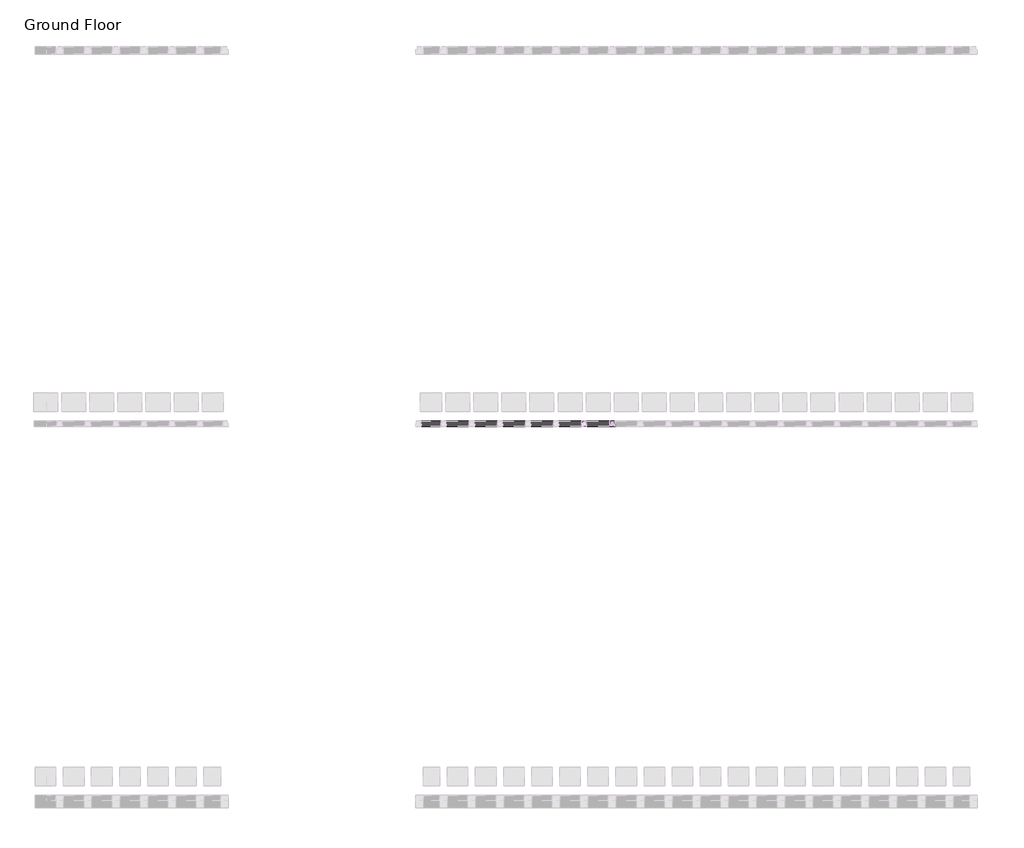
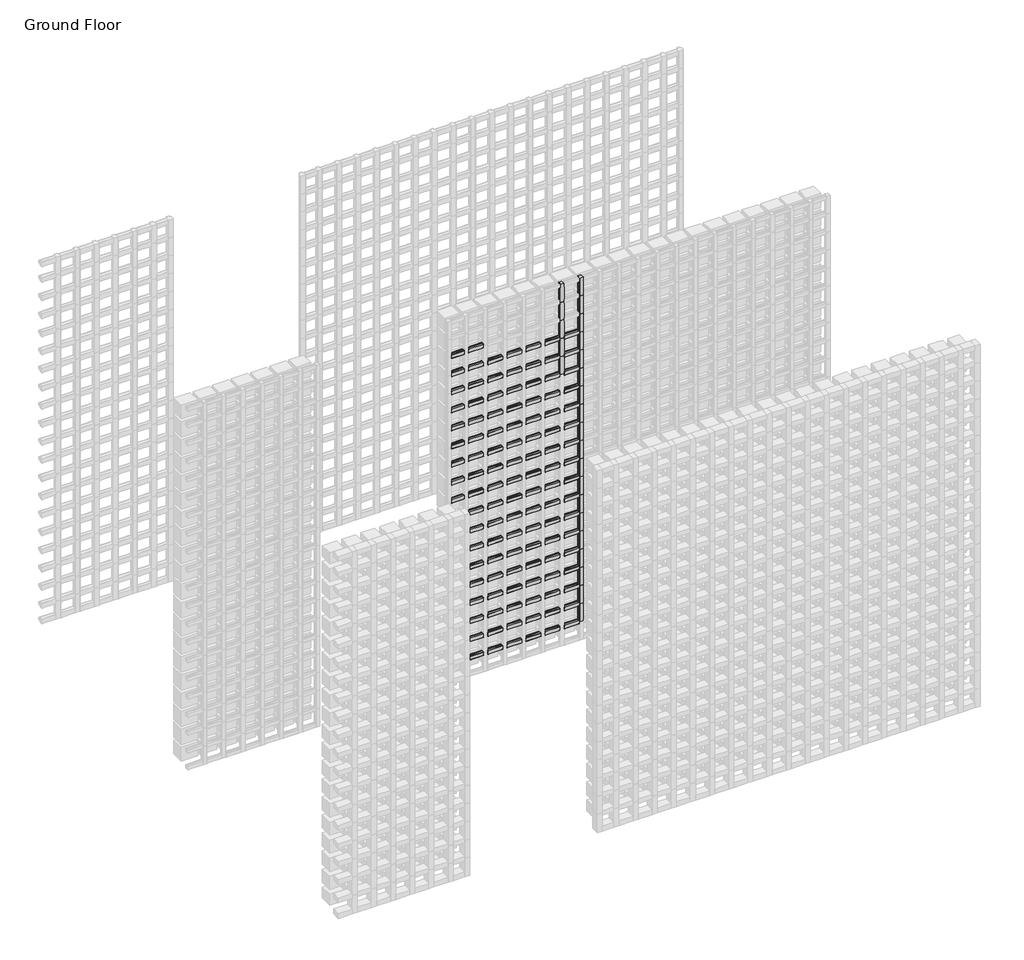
# One storey, part 105 of 350: 145 members.
"""IFC4 building model written with IfcOpenShell, lengths in millimetres."""

from ifc_helpers import new_model, si_unit, origin, place, context, project, spatial, transform, mapped, element, save
from components import rectangular_mullion_f1976eb1, rectangular_mullion_e2bab149, rectangular_mullion_707a50c4

model = new_model("IFC4")

# Units and contexts
model_context = context("Model", 3, world=origin())
ifc_project = project(units=[si_unit("LENGTHUNIT", "METRE", prefix="MILLI")], contexts=[model_context])

# Site, building, storey
site = spatial("IfcSite", under=ifc_project)
building = spatial("IfcBuilding", under=site)
storey = spatial("IfcBuildingStorey", under=building, Name="Ground Floor", Elevation=0.0)

# Members
placement = place(None, origin())
rectangular_mullion_shape = rectangular_mullion_f1976eb1(model_context)
element("IfcMember", 1, ObjectType="Rectangular Mullion : Batten_Timber_Modinex_Austratus_Grid_Fin_30x30_Blackbutt", at=placement, inside=storey, context=model_context, shape_type="MappedRepresentation", body=[
    mapped(rectangular_mullion_shape, transform((6816.4361642, 42968.2978302, 2250.0), x_axis=(1.0, 0.0, 0.0), y_axis=(0.0, -1.0, 0.0), z_axis=(0.0, 0.0, -1.0))),
])
element("IfcMember", 2, ObjectType="Rectangular Mullion : Batten_Timber_Modinex_Austratus_Grid_Fin_30x30_Blackbutt", at=placement, inside=storey, context=model_context, shape_type="MappedRepresentation", body=[
    mapped(rectangular_mullion_shape, transform((6816.4361642, 42968.2978302, 2400.0), x_axis=(1.0, 0.0, 0.0), y_axis=(0.0, -1.0, 0.0), z_axis=(0.0, 0.0, -1.0))),
])
element("IfcMember", 3, ObjectType="Rectangular Mullion : Batten_Timber_Modinex_Austratus_Grid_Fin_30x30_Blackbutt", at=placement, inside=storey, context=model_context, shape_type="MappedRepresentation", body=[
    mapped(rectangular_mullion_shape, transform((6816.4361642, 42968.2978302, 2550.0), x_axis=(1.0, 0.0, 0.0), y_axis=(0.0, -1.0, 0.0), z_axis=(0.0, 0.0, -1.0))),
])
element("IfcMember", 4, ObjectType="Rectangular Mullion : Batten_Timber_Modinex_Austratus_Grid_Fin_30x30_Blackbutt", at=placement, inside=storey, context=model_context, shape_type="MappedRepresentation", body=[
    mapped(rectangular_mullion_shape, transform((6816.4361642, 42968.2978302, 2700.0), x_axis=(1.0, 0.0, 0.0), y_axis=(0.0, -1.0, 0.0), z_axis=(0.0, 0.0, -1.0))),
])
element("IfcMember", 5, ObjectType="Rectangular Mullion : Batten_Timber_Modinex_Austratus_Grid_Fin_30x30_Blackbutt", at=placement, inside=storey, context=model_context, shape_type="MappedRepresentation", body=[
    mapped(rectangular_mullion_shape, transform((6966.4361642, 42968.2978302, 150.0), x_axis=(1.0, 0.0, 0.0), y_axis=(0.0, -1.0, 0.0), z_axis=(0.0, 0.0, -1.0))),
])
element("IfcMember", 6, ObjectType="Rectangular Mullion : Batten_Timber_Modinex_Austratus_Grid_Fin_30x30_Blackbutt", at=placement, inside=storey, context=model_context, shape_type="MappedRepresentation", body=[
    mapped(rectangular_mullion_shape, transform((6966.4361642, 42968.2978302, 300.0), x_axis=(1.0, 0.0, 0.0), y_axis=(0.0, -1.0, 0.0), z_axis=(0.0, 0.0, -1.0))),
])
element("IfcMember", 7, ObjectType="Rectangular Mullion : Batten_Timber_Modinex_Austratus_Grid_Fin_30x30_Blackbutt", at=placement, inside=storey, context=model_context, shape_type="MappedRepresentation", body=[
    mapped(rectangular_mullion_shape, transform((6966.4361642, 42968.2978302, 450.0), x_axis=(1.0, 0.0, 0.0), y_axis=(0.0, -1.0, 0.0), z_axis=(0.0, 0.0, -1.0))),
])
element("IfcMember", 8, ObjectType="Rectangular Mullion : Batten_Timber_Modinex_Austratus_Grid_Fin_30x30_Blackbutt", at=placement, inside=storey, context=model_context, shape_type="MappedRepresentation", body=[
    mapped(rectangular_mullion_shape, transform((6966.4361642, 42968.2978302, 600.0), x_axis=(1.0, 0.0, 0.0), y_axis=(0.0, -1.0, 0.0), z_axis=(0.0, 0.0, -1.0))),
])
element("IfcMember", 9, ObjectType="Rectangular Mullion : Batten_Timber_Modinex_Austratus_Grid_Fin_30x30_Blackbutt", at=placement, inside=storey, context=model_context, shape_type="MappedRepresentation", body=[
    mapped(rectangular_mullion_shape, transform((6966.4361642, 42968.2978302, 750.0), x_axis=(1.0, 0.0, 0.0), y_axis=(0.0, -1.0, 0.0), z_axis=(0.0, 0.0, -1.0))),
])
element("IfcMember", 10, ObjectType="Rectangular Mullion : Batten_Timber_Modinex_Austratus_Grid_Fin_30x30_Blackbutt", at=placement, inside=storey, context=model_context, shape_type="MappedRepresentation", body=[
    mapped(rectangular_mullion_shape, transform((6966.4361642, 42968.2978302, 900.0), x_axis=(1.0, 0.0, 0.0), y_axis=(0.0, -1.0, 0.0), z_axis=(0.0, 0.0, -1.0))),
])
element("IfcMember", 11, ObjectType="Rectangular Mullion : Batten_Timber_Modinex_Austratus_Grid_Fin_30x30_Blackbutt", at=placement, inside=storey, context=model_context, shape_type="MappedRepresentation", body=[
    mapped(rectangular_mullion_shape, transform((6966.4361642, 42968.2978302, 1050.0), x_axis=(1.0, 0.0, 0.0), y_axis=(0.0, -1.0, 0.0), z_axis=(0.0, 0.0, -1.0))),
])
element("IfcMember", 12, ObjectType="Rectangular Mullion : Batten_Timber_Modinex_Austratus_Grid_Fin_30x30_Blackbutt", at=placement, inside=storey, context=model_context, shape_type="MappedRepresentation", body=[
    mapped(rectangular_mullion_shape, transform((6966.4361642, 42968.2978302, 1200.0), x_axis=(1.0, 0.0, 0.0), y_axis=(0.0, -1.0, 0.0), z_axis=(0.0, 0.0, -1.0))),
])
element("IfcMember", 13, ObjectType="Rectangular Mullion : Batten_Timber_Modinex_Austratus_Grid_Fin_30x30_Blackbutt", at=placement, inside=storey, context=model_context, shape_type="MappedRepresentation", body=[
    mapped(rectangular_mullion_shape, transform((6966.4361642, 42968.2978302, 1350.0), x_axis=(1.0, 0.0, 0.0), y_axis=(0.0, -1.0, 0.0), z_axis=(0.0, 0.0, -1.0))),
])
element("IfcMember", 14, ObjectType="Rectangular Mullion : Batten_Timber_Modinex_Austratus_Grid_Fin_30x30_Blackbutt", at=placement, inside=storey, context=model_context, shape_type="MappedRepresentation", body=[
    mapped(rectangular_mullion_shape, transform((6966.4361642, 42968.2978302, 1500.0), x_axis=(1.0, 0.0, 0.0), y_axis=(0.0, -1.0, 0.0), z_axis=(0.0, 0.0, -1.0))),
])
element("IfcMember", 15, ObjectType="Rectangular Mullion : Batten_Timber_Modinex_Austratus_Grid_Fin_30x30_Blackbutt", at=placement, inside=storey, context=model_context, shape_type="MappedRepresentation", body=[
    mapped(rectangular_mullion_shape, transform((6966.4361642, 42968.2978302, 1650.0), x_axis=(1.0, 0.0, 0.0), y_axis=(0.0, -1.0, 0.0), z_axis=(0.0, 0.0, -1.0))),
])
element("IfcMember", 16, ObjectType="Rectangular Mullion : Batten_Timber_Modinex_Austratus_Grid_Fin_30x30_Blackbutt", at=placement, inside=storey, context=model_context, shape_type="MappedRepresentation", body=[
    mapped(rectangular_mullion_shape, transform((6966.4361642, 42968.2978302, 1800.0), x_axis=(1.0, 0.0, 0.0), y_axis=(0.0, -1.0, 0.0), z_axis=(0.0, 0.0, -1.0))),
])
element("IfcMember", 17, ObjectType="Rectangular Mullion : Batten_Timber_Modinex_Austratus_Grid_Fin_30x30_Blackbutt", at=placement, inside=storey, context=model_context, shape_type="MappedRepresentation", body=[
    mapped(rectangular_mullion_shape, transform((6966.4361642, 42968.2978302, 1950.0), x_axis=(1.0, 0.0, 0.0), y_axis=(0.0, -1.0, 0.0), z_axis=(0.0, 0.0, -1.0))),
])
element("IfcMember", 18, ObjectType="Rectangular Mullion : Batten_Timber_Modinex_Austratus_Grid_Fin_30x30_Blackbutt", at=placement, inside=storey, context=model_context, shape_type="MappedRepresentation", body=[
    mapped(rectangular_mullion_shape, transform((6966.4361642, 42968.2978302, 2100.0), x_axis=(1.0, 0.0, 0.0), y_axis=(0.0, -1.0, 0.0), z_axis=(0.0, 0.0, -1.0))),
])
element("IfcMember", 19, ObjectType="Rectangular Mullion : Batten_Timber_Modinex_Austratus_Grid_Fin_30x30_Blackbutt", at=placement, inside=storey, context=model_context, shape_type="MappedRepresentation", body=[
    mapped(rectangular_mullion_shape, transform((6966.4361642, 42968.2978302, 2250.0), x_axis=(1.0, 0.0, 0.0), y_axis=(0.0, -1.0, 0.0), z_axis=(0.0, 0.0, -1.0))),
])
element("IfcMember", 20, ObjectType="Rectangular Mullion : Batten_Timber_Modinex_Austratus_Grid_Fin_30x30_Blackbutt", at=placement, inside=storey, context=model_context, shape_type="MappedRepresentation", body=[
    mapped(rectangular_mullion_shape, transform((6966.4361642, 42968.2978302, 2400.0), x_axis=(1.0, 0.0, 0.0), y_axis=(0.0, -1.0, 0.0), z_axis=(0.0, 0.0, -1.0))),
])
element("IfcMember", 21, ObjectType="Rectangular Mullion : Batten_Timber_Modinex_Austratus_Grid_Fin_30x30_Blackbutt", at=placement, inside=storey, context=model_context, shape_type="MappedRepresentation", body=[
    mapped(rectangular_mullion_shape, transform((6966.4361642, 42968.2978302, 2550.0), x_axis=(1.0, 0.0, 0.0), y_axis=(0.0, -1.0, 0.0), z_axis=(0.0, 0.0, -1.0))),
])
element("IfcMember", 22, ObjectType="Rectangular Mullion : Batten_Timber_Modinex_Austratus_Grid_Fin_30x30_Blackbutt", at=placement, inside=storey, context=model_context, shape_type="MappedRepresentation", body=[
    mapped(rectangular_mullion_shape, transform((6966.4361642, 42968.2978302, 2700.0), x_axis=(1.0, 0.0, 0.0), y_axis=(0.0, -1.0, 0.0), z_axis=(0.0, 0.0, -1.0))),
])
element("IfcMember", 23, ObjectType="Rectangular Mullion : Batten_Timber_Modinex_Austratus_Grid_Fin_30x30_Blackbutt", at=placement, inside=storey, context=model_context, shape_type="MappedRepresentation", body=[
    mapped(rectangular_mullion_shape, transform((6816.4361642, 42968.2978302, 2850.0), x_axis=(1.0, 0.0, 0.0), y_axis=(0.0, -1.0, 0.0), z_axis=(0.0, 0.0, -1.0))),
])
element("IfcMember", 24, ObjectType="Rectangular Mullion : Batten_Timber_Modinex_Austratus_Grid_Fin_30x30_Blackbutt", at=placement, inside=storey, context=model_context, shape_type="MappedRepresentation", body=[
    mapped(rectangular_mullion_shape, transform((6966.4361642, 42968.2978302, 2850.0), x_axis=(1.0, 0.0, 0.0), y_axis=(0.0, -1.0, 0.0), z_axis=(0.0, 0.0, -1.0))),
])
rectangular_mullion_2_shape = rectangular_mullion_e2bab149(model_context)
element("IfcMember", 25, ObjectType="Rectangular Mullion : Batten_Timber_Modinex_Austratus_Grid_Fin_30x30_Blackbutt", at=placement, inside=storey, context=model_context, shape_type="MappedRepresentation", body=[
    mapped(rectangular_mullion_2_shape, transform((6051.4361642, 42968.2978302, 150.0), x_axis=(0.0, 0.0, 1.0), y_axis=(0.0, -1.0, 0.0), z_axis=(1.0, 0.0, 0.0))),
])
element("IfcMember", 26, ObjectType="Rectangular Mullion : Batten_Timber_Modinex_Austratus_Grid_Fin_30x30_Blackbutt", at=placement, inside=storey, context=model_context, shape_type="MappedRepresentation", body=[
    mapped(rectangular_mullion_2_shape, transform((6051.4361642, 42968.2978302, 300.0), x_axis=(0.0, 0.0, 1.0), y_axis=(0.0, -1.0, 0.0), z_axis=(1.0, 0.0, 0.0))),
])
element("IfcMember", 27, ObjectType="Rectangular Mullion : Batten_Timber_Modinex_Austratus_Grid_Fin_30x30_Blackbutt", at=placement, inside=storey, context=model_context, shape_type="MappedRepresentation", body=[
    mapped(rectangular_mullion_2_shape, transform((6051.4361642, 42968.2978302, 450.0), x_axis=(0.0, 0.0, 1.0), y_axis=(0.0, -1.0, 0.0), z_axis=(1.0, 0.0, 0.0))),
])
element("IfcMember", 28, ObjectType="Rectangular Mullion : Batten_Timber_Modinex_Austratus_Grid_Fin_30x30_Blackbutt", at=placement, inside=storey, context=model_context, shape_type="MappedRepresentation", body=[
    mapped(rectangular_mullion_2_shape, transform((6051.4361642, 42968.2978302, 600.0), x_axis=(0.0, 0.0, 1.0), y_axis=(0.0, -1.0, 0.0), z_axis=(1.0, 0.0, 0.0))),
])
element("IfcMember", 29, ObjectType="Rectangular Mullion : Batten_Timber_Modinex_Austratus_Grid_Fin_30x30_Blackbutt", at=placement, inside=storey, context=model_context, shape_type="MappedRepresentation", body=[
    mapped(rectangular_mullion_2_shape, transform((6051.4361642, 42968.2978302, 750.0), x_axis=(0.0, 0.0, 1.0), y_axis=(0.0, -1.0, 0.0), z_axis=(1.0, 0.0, 0.0))),
])
element("IfcMember", 30, ObjectType="Rectangular Mullion : Batten_Timber_Modinex_Austratus_Grid_Fin_30x30_Blackbutt", at=placement, inside=storey, context=model_context, shape_type="MappedRepresentation", body=[
    mapped(rectangular_mullion_2_shape, transform((6051.4361642, 42968.2978302, 900.0), x_axis=(0.0, 0.0, 1.0), y_axis=(0.0, -1.0, 0.0), z_axis=(1.0, 0.0, 0.0))),
])
element("IfcMember", 31, ObjectType="Rectangular Mullion : Batten_Timber_Modinex_Austratus_Grid_Fin_30x30_Blackbutt", at=placement, inside=storey, context=model_context, shape_type="MappedRepresentation", body=[
    mapped(rectangular_mullion_2_shape, transform((6051.4361642, 42968.2978302, 1050.0), x_axis=(0.0, 0.0, 1.0), y_axis=(0.0, -1.0, 0.0), z_axis=(1.0, 0.0, 0.0))),
])
element("IfcMember", 32, ObjectType="Rectangular Mullion : Batten_Timber_Modinex_Austratus_Grid_Fin_30x30_Blackbutt", at=placement, inside=storey, context=model_context, shape_type="MappedRepresentation", body=[
    mapped(rectangular_mullion_2_shape, transform((6051.4361642, 42968.2978302, 1200.0), x_axis=(0.0, 0.0, 1.0), y_axis=(0.0, -1.0, 0.0), z_axis=(1.0, 0.0, 0.0))),
])
element("IfcMember", 33, ObjectType="Rectangular Mullion : Batten_Timber_Modinex_Austratus_Grid_Fin_30x30_Blackbutt", at=placement, inside=storey, context=model_context, shape_type="MappedRepresentation", body=[
    mapped(rectangular_mullion_2_shape, transform((6051.4361642, 42968.2978302, 1350.0), x_axis=(0.0, 0.0, 1.0), y_axis=(0.0, -1.0, 0.0), z_axis=(1.0, 0.0, 0.0))),
])
element("IfcMember", 34, ObjectType="Rectangular Mullion : Batten_Timber_Modinex_Austratus_Grid_Fin_30x30_Blackbutt", at=placement, inside=storey, context=model_context, shape_type="MappedRepresentation", body=[
    mapped(rectangular_mullion_2_shape, transform((6051.4361642, 42968.2978302, 1500.0), x_axis=(0.0, 0.0, 1.0), y_axis=(0.0, -1.0, 0.0), z_axis=(1.0, 0.0, 0.0))),
])
element("IfcMember", 35, ObjectType="Rectangular Mullion : Batten_Timber_Modinex_Austratus_Grid_Fin_30x30_Blackbutt", at=placement, inside=storey, context=model_context, shape_type="MappedRepresentation", body=[
    mapped(rectangular_mullion_2_shape, transform((6051.4361642, 42968.2978302, 1650.0), x_axis=(0.0, 0.0, 1.0), y_axis=(0.0, -1.0, 0.0), z_axis=(1.0, 0.0, 0.0))),
])
element("IfcMember", 36, ObjectType="Rectangular Mullion : Batten_Timber_Modinex_Austratus_Grid_Fin_30x30_Blackbutt", at=placement, inside=storey, context=model_context, shape_type="MappedRepresentation", body=[
    mapped(rectangular_mullion_2_shape, transform((6051.4361642, 42968.2978302, 1800.0), x_axis=(0.0, 0.0, 1.0), y_axis=(0.0, -1.0, 0.0), z_axis=(1.0, 0.0, 0.0))),
])
element("IfcMember", 37, ObjectType="Rectangular Mullion : Batten_Timber_Modinex_Austratus_Grid_Fin_30x30_Blackbutt", at=placement, inside=storey, context=model_context, shape_type="MappedRepresentation", body=[
    mapped(rectangular_mullion_2_shape, transform((6051.4361642, 42968.2978302, 1950.0), x_axis=(0.0, 0.0, 1.0), y_axis=(0.0, -1.0, 0.0), z_axis=(1.0, 0.0, 0.0))),
])
element("IfcMember", 38, ObjectType="Rectangular Mullion : Batten_Timber_Modinex_Austratus_Grid_Fin_30x30_Blackbutt", at=placement, inside=storey, context=model_context, shape_type="MappedRepresentation", body=[
    mapped(rectangular_mullion_2_shape, transform((6051.4361642, 42968.2978302, 2100.0), x_axis=(0.0, 0.0, 1.0), y_axis=(0.0, -1.0, 0.0), z_axis=(1.0, 0.0, 0.0))),
])
element("IfcMember", 39, ObjectType="Rectangular Mullion : Batten_Timber_Modinex_Austratus_Grid_Fin_30x30_Blackbutt", at=placement, inside=storey, context=model_context, shape_type="MappedRepresentation", body=[
    mapped(rectangular_mullion_2_shape, transform((6051.4361642, 42968.2978302, 2250.0), x_axis=(0.0, 0.0, 1.0), y_axis=(0.0, -1.0, 0.0), z_axis=(1.0, 0.0, 0.0))),
])
element("IfcMember", 40, ObjectType="Rectangular Mullion : Batten_Timber_Modinex_Austratus_Grid_Fin_30x30_Blackbutt", at=placement, inside=storey, context=model_context, shape_type="MappedRepresentation", body=[
    mapped(rectangular_mullion_2_shape, transform((6051.4361642, 42968.2978302, 2400.0), x_axis=(0.0, 0.0, 1.0), y_axis=(0.0, -1.0, 0.0), z_axis=(1.0, 0.0, 0.0))),
])
element("IfcMember", 41, ObjectType="Rectangular Mullion : Batten_Timber_Modinex_Austratus_Grid_Fin_30x30_Blackbutt", at=placement, inside=storey, context=model_context, shape_type="MappedRepresentation", body=[
    mapped(rectangular_mullion_2_shape, transform((6051.4361642, 42968.2978302, 2550.0), x_axis=(0.0, 0.0, 1.0), y_axis=(0.0, -1.0, 0.0), z_axis=(1.0, 0.0, 0.0))),
])
element("IfcMember", 42, ObjectType="Rectangular Mullion : Batten_Timber_Modinex_Austratus_Grid_Fin_30x30_Blackbutt", at=placement, inside=storey, context=model_context, shape_type="MappedRepresentation", body=[
    mapped(rectangular_mullion_2_shape, transform((6051.4361642, 42968.2978302, 2700.0), x_axis=(0.0, 0.0, 1.0), y_axis=(0.0, -1.0, 0.0), z_axis=(1.0, 0.0, 0.0))),
])
rectangular_mullion_3_shape = rectangular_mullion_707a50c4(model_context)
element("IfcMember", 43, ObjectType="Rectangular Mullion : Batten_Timber_Modinex_Austratus_Grid_Fin_30x30_Blackbutt", at=placement, inside=storey, context=model_context, shape_type="MappedRepresentation", body=[
    mapped(rectangular_mullion_3_shape, transform((6201.4361642, 42968.2978302, 150.0), x_axis=(0.0, 0.0, 1.0), y_axis=(0.0, -1.0, 0.0), z_axis=(1.0, 0.0, 0.0))),
])
element("IfcMember", 44, ObjectType="Rectangular Mullion : Batten_Timber_Modinex_Austratus_Grid_Fin_30x30_Blackbutt", at=placement, inside=storey, context=model_context, shape_type="MappedRepresentation", body=[
    mapped(rectangular_mullion_3_shape, transform((6351.4361642, 42968.2978302, 150.0), x_axis=(0.0, 0.0, 1.0), y_axis=(0.0, -1.0, 0.0), z_axis=(1.0, 0.0, 0.0))),
])
element("IfcMember", 45, ObjectType="Rectangular Mullion : Batten_Timber_Modinex_Austratus_Grid_Fin_30x30_Blackbutt", at=placement, inside=storey, context=model_context, shape_type="MappedRepresentation", body=[
    mapped(rectangular_mullion_3_shape, transform((6501.4361642, 42968.2978302, 150.0), x_axis=(0.0, 0.0, 1.0), y_axis=(0.0, -1.0, 0.0), z_axis=(1.0, 0.0, 0.0))),
])
element("IfcMember", 46, ObjectType="Rectangular Mullion : Batten_Timber_Modinex_Austratus_Grid_Fin_30x30_Blackbutt", at=placement, inside=storey, context=model_context, shape_type="MappedRepresentation", body=[
    mapped(rectangular_mullion_3_shape, transform((6651.4361642, 42968.2978302, 150.0), x_axis=(0.0, 0.0, 1.0), y_axis=(0.0, -1.0, 0.0), z_axis=(1.0, 0.0, 0.0))),
])
element("IfcMember", 47, ObjectType="Rectangular Mullion : Batten_Timber_Modinex_Austratus_Grid_Fin_30x30_Blackbutt", at=placement, inside=storey, context=model_context, shape_type="MappedRepresentation", body=[
    mapped(rectangular_mullion_3_shape, transform((6801.4361642, 42968.2978302, 150.0), x_axis=(0.0, 0.0, 1.0), y_axis=(0.0, -1.0, 0.0), z_axis=(1.0, 0.0, 0.0))),
])
element("IfcMember", 48, ObjectType="Rectangular Mullion : Batten_Timber_Modinex_Austratus_Grid_Fin_30x30_Blackbutt", at=placement, inside=storey, context=model_context, shape_type="MappedRepresentation", body=[
    mapped(rectangular_mullion_3_shape, transform((6951.4361642, 42968.2978302, 150.0), x_axis=(0.0, 0.0, 1.0), y_axis=(0.0, -1.0, 0.0), z_axis=(1.0, 0.0, 0.0))),
])
element("IfcMember", 49, ObjectType="Rectangular Mullion : Batten_Timber_Modinex_Austratus_Grid_Fin_30x30_Blackbutt", at=placement, inside=storey, context=model_context, shape_type="MappedRepresentation", body=[
    mapped(rectangular_mullion_3_shape, transform((6201.4361642, 42968.2978302, 300.0), x_axis=(0.0, 0.0, 1.0), y_axis=(0.0, -1.0, 0.0), z_axis=(1.0, 0.0, 0.0))),
])
element("IfcMember", 50, ObjectType="Rectangular Mullion : Batten_Timber_Modinex_Austratus_Grid_Fin_30x30_Blackbutt", at=placement, inside=storey, context=model_context, shape_type="MappedRepresentation", body=[
    mapped(rectangular_mullion_3_shape, transform((6351.4361642, 42968.2978302, 300.0), x_axis=(0.0, 0.0, 1.0), y_axis=(0.0, -1.0, 0.0), z_axis=(1.0, 0.0, 0.0))),
])
element("IfcMember", 51, ObjectType="Rectangular Mullion : Batten_Timber_Modinex_Austratus_Grid_Fin_30x30_Blackbutt", at=placement, inside=storey, context=model_context, shape_type="MappedRepresentation", body=[
    mapped(rectangular_mullion_3_shape, transform((6501.4361642, 42968.2978302, 300.0), x_axis=(0.0, 0.0, 1.0), y_axis=(0.0, -1.0, 0.0), z_axis=(1.0, 0.0, 0.0))),
])
element("IfcMember", 52, ObjectType="Rectangular Mullion : Batten_Timber_Modinex_Austratus_Grid_Fin_30x30_Blackbutt", at=placement, inside=storey, context=model_context, shape_type="MappedRepresentation", body=[
    mapped(rectangular_mullion_3_shape, transform((6651.4361642, 42968.2978302, 300.0), x_axis=(0.0, 0.0, 1.0), y_axis=(0.0, -1.0, 0.0), z_axis=(1.0, 0.0, 0.0))),
])
element("IfcMember", 53, ObjectType="Rectangular Mullion : Batten_Timber_Modinex_Austratus_Grid_Fin_30x30_Blackbutt", at=placement, inside=storey, context=model_context, shape_type="MappedRepresentation", body=[
    mapped(rectangular_mullion_3_shape, transform((6801.4361642, 42968.2978302, 300.0), x_axis=(0.0, 0.0, 1.0), y_axis=(0.0, -1.0, 0.0), z_axis=(1.0, 0.0, 0.0))),
])
element("IfcMember", 54, ObjectType="Rectangular Mullion : Batten_Timber_Modinex_Austratus_Grid_Fin_30x30_Blackbutt", at=placement, inside=storey, context=model_context, shape_type="MappedRepresentation", body=[
    mapped(rectangular_mullion_3_shape, transform((6951.4361642, 42968.2978302, 300.0), x_axis=(0.0, 0.0, 1.0), y_axis=(0.0, -1.0, 0.0), z_axis=(1.0, 0.0, 0.0))),
])
element("IfcMember", 55, ObjectType="Rectangular Mullion : Batten_Timber_Modinex_Austratus_Grid_Fin_30x30_Blackbutt", at=placement, inside=storey, context=model_context, shape_type="MappedRepresentation", body=[
    mapped(rectangular_mullion_3_shape, transform((6201.4361642, 42968.2978302, 450.0), x_axis=(0.0, 0.0, 1.0), y_axis=(0.0, -1.0, 0.0), z_axis=(1.0, 0.0, 0.0))),
])
element("IfcMember", 56, ObjectType="Rectangular Mullion : Batten_Timber_Modinex_Austratus_Grid_Fin_30x30_Blackbutt", at=placement, inside=storey, context=model_context, shape_type="MappedRepresentation", body=[
    mapped(rectangular_mullion_3_shape, transform((6351.4361642, 42968.2978302, 450.0), x_axis=(0.0, 0.0, 1.0), y_axis=(0.0, -1.0, 0.0), z_axis=(1.0, 0.0, 0.0))),
])
element("IfcMember", 57, ObjectType="Rectangular Mullion : Batten_Timber_Modinex_Austratus_Grid_Fin_30x30_Blackbutt", at=placement, inside=storey, context=model_context, shape_type="MappedRepresentation", body=[
    mapped(rectangular_mullion_3_shape, transform((6501.4361642, 42968.2978302, 450.0), x_axis=(0.0, 0.0, 1.0), y_axis=(0.0, -1.0, 0.0), z_axis=(1.0, 0.0, 0.0))),
])
element("IfcMember", 58, ObjectType="Rectangular Mullion : Batten_Timber_Modinex_Austratus_Grid_Fin_30x30_Blackbutt", at=placement, inside=storey, context=model_context, shape_type="MappedRepresentation", body=[
    mapped(rectangular_mullion_3_shape, transform((6651.4361642, 42968.2978302, 450.0), x_axis=(0.0, 0.0, 1.0), y_axis=(0.0, -1.0, 0.0), z_axis=(1.0, 0.0, 0.0))),
])
element("IfcMember", 59, ObjectType="Rectangular Mullion : Batten_Timber_Modinex_Austratus_Grid_Fin_30x30_Blackbutt", at=placement, inside=storey, context=model_context, shape_type="MappedRepresentation", body=[
    mapped(rectangular_mullion_3_shape, transform((6801.4361642, 42968.2978302, 450.0), x_axis=(0.0, 0.0, 1.0), y_axis=(0.0, -1.0, 0.0), z_axis=(1.0, 0.0, 0.0))),
])
element("IfcMember", 60, ObjectType="Rectangular Mullion : Batten_Timber_Modinex_Austratus_Grid_Fin_30x30_Blackbutt", at=placement, inside=storey, context=model_context, shape_type="MappedRepresentation", body=[
    mapped(rectangular_mullion_3_shape, transform((6951.4361642, 42968.2978302, 450.0), x_axis=(0.0, 0.0, 1.0), y_axis=(0.0, -1.0, 0.0), z_axis=(1.0, 0.0, 0.0))),
])
element("IfcMember", 61, ObjectType="Rectangular Mullion : Batten_Timber_Modinex_Austratus_Grid_Fin_30x30_Blackbutt", at=placement, inside=storey, context=model_context, shape_type="MappedRepresentation", body=[
    mapped(rectangular_mullion_3_shape, transform((6201.4361642, 42968.2978302, 600.0), x_axis=(0.0, 0.0, 1.0), y_axis=(0.0, -1.0, 0.0), z_axis=(1.0, 0.0, 0.0))),
])
element("IfcMember", 62, ObjectType="Rectangular Mullion : Batten_Timber_Modinex_Austratus_Grid_Fin_30x30_Blackbutt", at=placement, inside=storey, context=model_context, shape_type="MappedRepresentation", body=[
    mapped(rectangular_mullion_3_shape, transform((6351.4361642, 42968.2978302, 600.0), x_axis=(0.0, 0.0, 1.0), y_axis=(0.0, -1.0, 0.0), z_axis=(1.0, 0.0, 0.0))),
])
element("IfcMember", 63, ObjectType="Rectangular Mullion : Batten_Timber_Modinex_Austratus_Grid_Fin_30x30_Blackbutt", at=placement, inside=storey, context=model_context, shape_type="MappedRepresentation", body=[
    mapped(rectangular_mullion_3_shape, transform((6501.4361642, 42968.2978302, 600.0), x_axis=(0.0, 0.0, 1.0), y_axis=(0.0, -1.0, 0.0), z_axis=(1.0, 0.0, 0.0))),
])
element("IfcMember", 64, ObjectType="Rectangular Mullion : Batten_Timber_Modinex_Austratus_Grid_Fin_30x30_Blackbutt", at=placement, inside=storey, context=model_context, shape_type="MappedRepresentation", body=[
    mapped(rectangular_mullion_3_shape, transform((6651.4361642, 42968.2978302, 600.0), x_axis=(0.0, 0.0, 1.0), y_axis=(0.0, -1.0, 0.0), z_axis=(1.0, 0.0, 0.0))),
])
element("IfcMember", 65, ObjectType="Rectangular Mullion : Batten_Timber_Modinex_Austratus_Grid_Fin_30x30_Blackbutt", at=placement, inside=storey, context=model_context, shape_type="MappedRepresentation", body=[
    mapped(rectangular_mullion_3_shape, transform((6801.4361642, 42968.2978302, 600.0), x_axis=(0.0, 0.0, 1.0), y_axis=(0.0, -1.0, 0.0), z_axis=(1.0, 0.0, 0.0))),
])
element("IfcMember", 66, ObjectType="Rectangular Mullion : Batten_Timber_Modinex_Austratus_Grid_Fin_30x30_Blackbutt", at=placement, inside=storey, context=model_context, shape_type="MappedRepresentation", body=[
    mapped(rectangular_mullion_3_shape, transform((6951.4361642, 42968.2978302, 600.0), x_axis=(0.0, 0.0, 1.0), y_axis=(0.0, -1.0, 0.0), z_axis=(1.0, 0.0, 0.0))),
])
element("IfcMember", 67, ObjectType="Rectangular Mullion : Batten_Timber_Modinex_Austratus_Grid_Fin_30x30_Blackbutt", at=placement, inside=storey, context=model_context, shape_type="MappedRepresentation", body=[
    mapped(rectangular_mullion_3_shape, transform((6201.4361642, 42968.2978302, 750.0), x_axis=(0.0, 0.0, 1.0), y_axis=(0.0, -1.0, 0.0), z_axis=(1.0, 0.0, 0.0))),
])
element("IfcMember", 68, ObjectType="Rectangular Mullion : Batten_Timber_Modinex_Austratus_Grid_Fin_30x30_Blackbutt", at=placement, inside=storey, context=model_context, shape_type="MappedRepresentation", body=[
    mapped(rectangular_mullion_3_shape, transform((6351.4361642, 42968.2978302, 750.0), x_axis=(0.0, 0.0, 1.0), y_axis=(0.0, -1.0, 0.0), z_axis=(1.0, 0.0, 0.0))),
])
element("IfcMember", 69, ObjectType="Rectangular Mullion : Batten_Timber_Modinex_Austratus_Grid_Fin_30x30_Blackbutt", at=placement, inside=storey, context=model_context, shape_type="MappedRepresentation", body=[
    mapped(rectangular_mullion_3_shape, transform((6501.4361642, 42968.2978302, 750.0), x_axis=(0.0, 0.0, 1.0), y_axis=(0.0, -1.0, 0.0), z_axis=(1.0, 0.0, 0.0))),
])
element("IfcMember", 70, ObjectType="Rectangular Mullion : Batten_Timber_Modinex_Austratus_Grid_Fin_30x30_Blackbutt", at=placement, inside=storey, context=model_context, shape_type="MappedRepresentation", body=[
    mapped(rectangular_mullion_3_shape, transform((6651.4361642, 42968.2978302, 750.0), x_axis=(0.0, 0.0, 1.0), y_axis=(0.0, -1.0, 0.0), z_axis=(1.0, 0.0, 0.0))),
])
element("IfcMember", 71, ObjectType="Rectangular Mullion : Batten_Timber_Modinex_Austratus_Grid_Fin_30x30_Blackbutt", at=placement, inside=storey, context=model_context, shape_type="MappedRepresentation", body=[
    mapped(rectangular_mullion_3_shape, transform((6801.4361642, 42968.2978302, 750.0), x_axis=(0.0, 0.0, 1.0), y_axis=(0.0, -1.0, 0.0), z_axis=(1.0, 0.0, 0.0))),
])
element("IfcMember", 72, ObjectType="Rectangular Mullion : Batten_Timber_Modinex_Austratus_Grid_Fin_30x30_Blackbutt", at=placement, inside=storey, context=model_context, shape_type="MappedRepresentation", body=[
    mapped(rectangular_mullion_3_shape, transform((6951.4361642, 42968.2978302, 750.0), x_axis=(0.0, 0.0, 1.0), y_axis=(0.0, -1.0, 0.0), z_axis=(1.0, 0.0, 0.0))),
])
element("IfcMember", 73, ObjectType="Rectangular Mullion : Batten_Timber_Modinex_Austratus_Grid_Fin_30x30_Blackbutt", at=placement, inside=storey, context=model_context, shape_type="MappedRepresentation", body=[
    mapped(rectangular_mullion_3_shape, transform((6201.4361642, 42968.2978302, 900.0), x_axis=(0.0, 0.0, 1.0), y_axis=(0.0, -1.0, 0.0), z_axis=(1.0, 0.0, 0.0))),
])
element("IfcMember", 74, ObjectType="Rectangular Mullion : Batten_Timber_Modinex_Austratus_Grid_Fin_30x30_Blackbutt", at=placement, inside=storey, context=model_context, shape_type="MappedRepresentation", body=[
    mapped(rectangular_mullion_3_shape, transform((6351.4361642, 42968.2978302, 900.0), x_axis=(0.0, 0.0, 1.0), y_axis=(0.0, -1.0, 0.0), z_axis=(1.0, 0.0, 0.0))),
])
element("IfcMember", 75, ObjectType="Rectangular Mullion : Batten_Timber_Modinex_Austratus_Grid_Fin_30x30_Blackbutt", at=placement, inside=storey, context=model_context, shape_type="MappedRepresentation", body=[
    mapped(rectangular_mullion_3_shape, transform((6501.4361642, 42968.2978302, 900.0), x_axis=(0.0, 0.0, 1.0), y_axis=(0.0, -1.0, 0.0), z_axis=(1.0, 0.0, 0.0))),
])
element("IfcMember", 76, ObjectType="Rectangular Mullion : Batten_Timber_Modinex_Austratus_Grid_Fin_30x30_Blackbutt", at=placement, inside=storey, context=model_context, shape_type="MappedRepresentation", body=[
    mapped(rectangular_mullion_3_shape, transform((6651.4361642, 42968.2978302, 900.0), x_axis=(0.0, 0.0, 1.0), y_axis=(0.0, -1.0, 0.0), z_axis=(1.0, 0.0, 0.0))),
])
element("IfcMember", 77, ObjectType="Rectangular Mullion : Batten_Timber_Modinex_Austratus_Grid_Fin_30x30_Blackbutt", at=placement, inside=storey, context=model_context, shape_type="MappedRepresentation", body=[
    mapped(rectangular_mullion_3_shape, transform((6801.4361642, 42968.2978302, 900.0), x_axis=(0.0, 0.0, 1.0), y_axis=(0.0, -1.0, 0.0), z_axis=(1.0, 0.0, 0.0))),
])
element("IfcMember", 78, ObjectType="Rectangular Mullion : Batten_Timber_Modinex_Austratus_Grid_Fin_30x30_Blackbutt", at=placement, inside=storey, context=model_context, shape_type="MappedRepresentation", body=[
    mapped(rectangular_mullion_3_shape, transform((6951.4361642, 42968.2978302, 900.0), x_axis=(0.0, 0.0, 1.0), y_axis=(0.0, -1.0, 0.0), z_axis=(1.0, 0.0, 0.0))),
])
element("IfcMember", 79, ObjectType="Rectangular Mullion : Batten_Timber_Modinex_Austratus_Grid_Fin_30x30_Blackbutt", at=placement, inside=storey, context=model_context, shape_type="MappedRepresentation", body=[
    mapped(rectangular_mullion_3_shape, transform((6201.4361642, 42968.2978302, 1050.0), x_axis=(0.0, 0.0, 1.0), y_axis=(0.0, -1.0, 0.0), z_axis=(1.0, 0.0, 0.0))),
])
element("IfcMember", 80, ObjectType="Rectangular Mullion : Batten_Timber_Modinex_Austratus_Grid_Fin_30x30_Blackbutt", at=placement, inside=storey, context=model_context, shape_type="MappedRepresentation", body=[
    mapped(rectangular_mullion_3_shape, transform((6351.4361642, 42968.2978302, 1050.0), x_axis=(0.0, 0.0, 1.0), y_axis=(0.0, -1.0, 0.0), z_axis=(1.0, 0.0, 0.0))),
])
element("IfcMember", 81, ObjectType="Rectangular Mullion : Batten_Timber_Modinex_Austratus_Grid_Fin_30x30_Blackbutt", at=placement, inside=storey, context=model_context, shape_type="MappedRepresentation", body=[
    mapped(rectangular_mullion_3_shape, transform((6501.4361642, 42968.2978302, 1050.0), x_axis=(0.0, 0.0, 1.0), y_axis=(0.0, -1.0, 0.0), z_axis=(1.0, 0.0, 0.0))),
])
element("IfcMember", 82, ObjectType="Rectangular Mullion : Batten_Timber_Modinex_Austratus_Grid_Fin_30x30_Blackbutt", at=placement, inside=storey, context=model_context, shape_type="MappedRepresentation", body=[
    mapped(rectangular_mullion_3_shape, transform((6651.4361642, 42968.2978302, 1050.0), x_axis=(0.0, 0.0, 1.0), y_axis=(0.0, -1.0, 0.0), z_axis=(1.0, 0.0, 0.0))),
])
element("IfcMember", 83, ObjectType="Rectangular Mullion : Batten_Timber_Modinex_Austratus_Grid_Fin_30x30_Blackbutt", at=placement, inside=storey, context=model_context, shape_type="MappedRepresentation", body=[
    mapped(rectangular_mullion_3_shape, transform((6801.4361642, 42968.2978302, 1050.0), x_axis=(0.0, 0.0, 1.0), y_axis=(0.0, -1.0, 0.0), z_axis=(1.0, 0.0, 0.0))),
])
element("IfcMember", 84, ObjectType="Rectangular Mullion : Batten_Timber_Modinex_Austratus_Grid_Fin_30x30_Blackbutt", at=placement, inside=storey, context=model_context, shape_type="MappedRepresentation", body=[
    mapped(rectangular_mullion_3_shape, transform((6951.4361642, 42968.2978302, 1050.0), x_axis=(0.0, 0.0, 1.0), y_axis=(0.0, -1.0, 0.0), z_axis=(1.0, 0.0, 0.0))),
])
element("IfcMember", 85, ObjectType="Rectangular Mullion : Batten_Timber_Modinex_Austratus_Grid_Fin_30x30_Blackbutt", at=placement, inside=storey, context=model_context, shape_type="MappedRepresentation", body=[
    mapped(rectangular_mullion_3_shape, transform((6201.4361642, 42968.2978302, 1200.0), x_axis=(0.0, 0.0, 1.0), y_axis=(0.0, -1.0, 0.0), z_axis=(1.0, 0.0, 0.0))),
])
element("IfcMember", 86, ObjectType="Rectangular Mullion : Batten_Timber_Modinex_Austratus_Grid_Fin_30x30_Blackbutt", at=placement, inside=storey, context=model_context, shape_type="MappedRepresentation", body=[
    mapped(rectangular_mullion_3_shape, transform((6351.4361642, 42968.2978302, 1200.0), x_axis=(0.0, 0.0, 1.0), y_axis=(0.0, -1.0, 0.0), z_axis=(1.0, 0.0, 0.0))),
])
element("IfcMember", 87, ObjectType="Rectangular Mullion : Batten_Timber_Modinex_Austratus_Grid_Fin_30x30_Blackbutt", at=placement, inside=storey, context=model_context, shape_type="MappedRepresentation", body=[
    mapped(rectangular_mullion_3_shape, transform((6501.4361642, 42968.2978302, 1200.0), x_axis=(0.0, 0.0, 1.0), y_axis=(0.0, -1.0, 0.0), z_axis=(1.0, 0.0, 0.0))),
])
element("IfcMember", 88, ObjectType="Rectangular Mullion : Batten_Timber_Modinex_Austratus_Grid_Fin_30x30_Blackbutt", at=placement, inside=storey, context=model_context, shape_type="MappedRepresentation", body=[
    mapped(rectangular_mullion_3_shape, transform((6651.4361642, 42968.2978302, 1200.0), x_axis=(0.0, 0.0, 1.0), y_axis=(0.0, -1.0, 0.0), z_axis=(1.0, 0.0, 0.0))),
])
element("IfcMember", 89, ObjectType="Rectangular Mullion : Batten_Timber_Modinex_Austratus_Grid_Fin_30x30_Blackbutt", at=placement, inside=storey, context=model_context, shape_type="MappedRepresentation", body=[
    mapped(rectangular_mullion_3_shape, transform((6801.4361642, 42968.2978302, 1200.0), x_axis=(0.0, 0.0, 1.0), y_axis=(0.0, -1.0, 0.0), z_axis=(1.0, 0.0, 0.0))),
])
element("IfcMember", 90, ObjectType="Rectangular Mullion : Batten_Timber_Modinex_Austratus_Grid_Fin_30x30_Blackbutt", at=placement, inside=storey, context=model_context, shape_type="MappedRepresentation", body=[
    mapped(rectangular_mullion_3_shape, transform((6951.4361642, 42968.2978302, 1200.0), x_axis=(0.0, 0.0, 1.0), y_axis=(0.0, -1.0, 0.0), z_axis=(1.0, 0.0, 0.0))),
])
element("IfcMember", 91, ObjectType="Rectangular Mullion : Batten_Timber_Modinex_Austratus_Grid_Fin_30x30_Blackbutt", at=placement, inside=storey, context=model_context, shape_type="MappedRepresentation", body=[
    mapped(rectangular_mullion_3_shape, transform((6201.4361642, 42968.2978302, 1350.0), x_axis=(0.0, 0.0, 1.0), y_axis=(0.0, -1.0, 0.0), z_axis=(1.0, 0.0, 0.0))),
])
element("IfcMember", 92, ObjectType="Rectangular Mullion : Batten_Timber_Modinex_Austratus_Grid_Fin_30x30_Blackbutt", at=placement, inside=storey, context=model_context, shape_type="MappedRepresentation", body=[
    mapped(rectangular_mullion_3_shape, transform((6351.4361642, 42968.2978302, 1350.0), x_axis=(0.0, 0.0, 1.0), y_axis=(0.0, -1.0, 0.0), z_axis=(1.0, 0.0, 0.0))),
])
element("IfcMember", 93, ObjectType="Rectangular Mullion : Batten_Timber_Modinex_Austratus_Grid_Fin_30x30_Blackbutt", at=placement, inside=storey, context=model_context, shape_type="MappedRepresentation", body=[
    mapped(rectangular_mullion_3_shape, transform((6501.4361642, 42968.2978302, 1350.0), x_axis=(0.0, 0.0, 1.0), y_axis=(0.0, -1.0, 0.0), z_axis=(1.0, 0.0, 0.0))),
])
element("IfcMember", 94, ObjectType="Rectangular Mullion : Batten_Timber_Modinex_Austratus_Grid_Fin_30x30_Blackbutt", at=placement, inside=storey, context=model_context, shape_type="MappedRepresentation", body=[
    mapped(rectangular_mullion_3_shape, transform((6651.4361642, 42968.2978302, 1350.0), x_axis=(0.0, 0.0, 1.0), y_axis=(0.0, -1.0, 0.0), z_axis=(1.0, 0.0, 0.0))),
])
element("IfcMember", 95, ObjectType="Rectangular Mullion : Batten_Timber_Modinex_Austratus_Grid_Fin_30x30_Blackbutt", at=placement, inside=storey, context=model_context, shape_type="MappedRepresentation", body=[
    mapped(rectangular_mullion_3_shape, transform((6801.4361642, 42968.2978302, 1350.0), x_axis=(0.0, 0.0, 1.0), y_axis=(0.0, -1.0, 0.0), z_axis=(1.0, 0.0, 0.0))),
])
element("IfcMember", 96, ObjectType="Rectangular Mullion : Batten_Timber_Modinex_Austratus_Grid_Fin_30x30_Blackbutt", at=placement, inside=storey, context=model_context, shape_type="MappedRepresentation", body=[
    mapped(rectangular_mullion_3_shape, transform((6951.4361642, 42968.2978302, 1350.0), x_axis=(0.0, 0.0, 1.0), y_axis=(0.0, -1.0, 0.0), z_axis=(1.0, 0.0, 0.0))),
])
element("IfcMember", 97, ObjectType="Rectangular Mullion : Batten_Timber_Modinex_Austratus_Grid_Fin_30x30_Blackbutt", at=placement, inside=storey, context=model_context, shape_type="MappedRepresentation", body=[
    mapped(rectangular_mullion_3_shape, transform((6201.4361642, 42968.2978302, 1500.0), x_axis=(0.0, 0.0, 1.0), y_axis=(0.0, -1.0, 0.0), z_axis=(1.0, 0.0, 0.0))),
])
element("IfcMember", 98, ObjectType="Rectangular Mullion : Batten_Timber_Modinex_Austratus_Grid_Fin_30x30_Blackbutt", at=placement, inside=storey, context=model_context, shape_type="MappedRepresentation", body=[
    mapped(rectangular_mullion_3_shape, transform((6351.4361642, 42968.2978302, 1500.0), x_axis=(0.0, 0.0, 1.0), y_axis=(0.0, -1.0, 0.0), z_axis=(1.0, 0.0, 0.0))),
])
element("IfcMember", 99, ObjectType="Rectangular Mullion : Batten_Timber_Modinex_Austratus_Grid_Fin_30x30_Blackbutt", at=placement, inside=storey, context=model_context, shape_type="MappedRepresentation", body=[
    mapped(rectangular_mullion_3_shape, transform((6501.4361642, 42968.2978302, 1500.0), x_axis=(0.0, 0.0, 1.0), y_axis=(0.0, -1.0, 0.0), z_axis=(1.0, 0.0, 0.0))),
])
element("IfcMember", 100, ObjectType="Rectangular Mullion : Batten_Timber_Modinex_Austratus_Grid_Fin_30x30_Blackbutt", at=placement, inside=storey, context=model_context, shape_type="MappedRepresentation", body=[
    mapped(rectangular_mullion_3_shape, transform((6651.4361642, 42968.2978302, 1500.0), x_axis=(0.0, 0.0, 1.0), y_axis=(0.0, -1.0, 0.0), z_axis=(1.0, 0.0, 0.0))),
])
element("IfcMember", 101, ObjectType="Rectangular Mullion : Batten_Timber_Modinex_Austratus_Grid_Fin_30x30_Blackbutt", at=placement, inside=storey, context=model_context, shape_type="MappedRepresentation", body=[
    mapped(rectangular_mullion_3_shape, transform((6801.4361642, 42968.2978302, 1500.0), x_axis=(0.0, 0.0, 1.0), y_axis=(0.0, -1.0, 0.0), z_axis=(1.0, 0.0, 0.0))),
])
element("IfcMember", 102, ObjectType="Rectangular Mullion : Batten_Timber_Modinex_Austratus_Grid_Fin_30x30_Blackbutt", at=placement, inside=storey, context=model_context, shape_type="MappedRepresentation", body=[
    mapped(rectangular_mullion_3_shape, transform((6951.4361642, 42968.2978302, 1500.0), x_axis=(0.0, 0.0, 1.0), y_axis=(0.0, -1.0, 0.0), z_axis=(1.0, 0.0, 0.0))),
])
element("IfcMember", 103, ObjectType="Rectangular Mullion : Batten_Timber_Modinex_Austratus_Grid_Fin_30x30_Blackbutt", at=placement, inside=storey, context=model_context, shape_type="MappedRepresentation", body=[
    mapped(rectangular_mullion_3_shape, transform((6201.4361642, 42968.2978302, 1650.0), x_axis=(0.0, 0.0, 1.0), y_axis=(0.0, -1.0, 0.0), z_axis=(1.0, 0.0, 0.0))),
])
element("IfcMember", 104, ObjectType="Rectangular Mullion : Batten_Timber_Modinex_Austratus_Grid_Fin_30x30_Blackbutt", at=placement, inside=storey, context=model_context, shape_type="MappedRepresentation", body=[
    mapped(rectangular_mullion_3_shape, transform((6351.4361642, 42968.2978302, 1650.0), x_axis=(0.0, 0.0, 1.0), y_axis=(0.0, -1.0, 0.0), z_axis=(1.0, 0.0, 0.0))),
])
element("IfcMember", 105, ObjectType="Rectangular Mullion : Batten_Timber_Modinex_Austratus_Grid_Fin_30x30_Blackbutt", at=placement, inside=storey, context=model_context, shape_type="MappedRepresentation", body=[
    mapped(rectangular_mullion_3_shape, transform((6501.4361642, 42968.2978302, 1650.0), x_axis=(0.0, 0.0, 1.0), y_axis=(0.0, -1.0, 0.0), z_axis=(1.0, 0.0, 0.0))),
])
element("IfcMember", 106, ObjectType="Rectangular Mullion : Batten_Timber_Modinex_Austratus_Grid_Fin_30x30_Blackbutt", at=placement, inside=storey, context=model_context, shape_type="MappedRepresentation", body=[
    mapped(rectangular_mullion_3_shape, transform((6651.4361642, 42968.2978302, 1650.0), x_axis=(0.0, 0.0, 1.0), y_axis=(0.0, -1.0, 0.0), z_axis=(1.0, 0.0, 0.0))),
])
element("IfcMember", 107, ObjectType="Rectangular Mullion : Batten_Timber_Modinex_Austratus_Grid_Fin_30x30_Blackbutt", at=placement, inside=storey, context=model_context, shape_type="MappedRepresentation", body=[
    mapped(rectangular_mullion_3_shape, transform((6801.4361642, 42968.2978302, 1650.0), x_axis=(0.0, 0.0, 1.0), y_axis=(0.0, -1.0, 0.0), z_axis=(1.0, 0.0, 0.0))),
])
element("IfcMember", 108, ObjectType="Rectangular Mullion : Batten_Timber_Modinex_Austratus_Grid_Fin_30x30_Blackbutt", at=placement, inside=storey, context=model_context, shape_type="MappedRepresentation", body=[
    mapped(rectangular_mullion_3_shape, transform((6951.4361642, 42968.2978302, 1650.0), x_axis=(0.0, 0.0, 1.0), y_axis=(0.0, -1.0, 0.0), z_axis=(1.0, 0.0, 0.0))),
])
element("IfcMember", 109, ObjectType="Rectangular Mullion : Batten_Timber_Modinex_Austratus_Grid_Fin_30x30_Blackbutt", at=placement, inside=storey, context=model_context, shape_type="MappedRepresentation", body=[
    mapped(rectangular_mullion_3_shape, transform((6201.4361642, 42968.2978302, 1800.0), x_axis=(0.0, 0.0, 1.0), y_axis=(0.0, -1.0, 0.0), z_axis=(1.0, 0.0, 0.0))),
])
element("IfcMember", 110, ObjectType="Rectangular Mullion : Batten_Timber_Modinex_Austratus_Grid_Fin_30x30_Blackbutt", at=placement, inside=storey, context=model_context, shape_type="MappedRepresentation", body=[
    mapped(rectangular_mullion_3_shape, transform((6351.4361642, 42968.2978302, 1800.0), x_axis=(0.0, 0.0, 1.0), y_axis=(0.0, -1.0, 0.0), z_axis=(1.0, 0.0, 0.0))),
])
element("IfcMember", 111, ObjectType="Rectangular Mullion : Batten_Timber_Modinex_Austratus_Grid_Fin_30x30_Blackbutt", at=placement, inside=storey, context=model_context, shape_type="MappedRepresentation", body=[
    mapped(rectangular_mullion_3_shape, transform((6501.4361642, 42968.2978302, 1800.0), x_axis=(0.0, 0.0, 1.0), y_axis=(0.0, -1.0, 0.0), z_axis=(1.0, 0.0, 0.0))),
])
element("IfcMember", 112, ObjectType="Rectangular Mullion : Batten_Timber_Modinex_Austratus_Grid_Fin_30x30_Blackbutt", at=placement, inside=storey, context=model_context, shape_type="MappedRepresentation", body=[
    mapped(rectangular_mullion_3_shape, transform((6651.4361642, 42968.2978302, 1800.0), x_axis=(0.0, 0.0, 1.0), y_axis=(0.0, -1.0, 0.0), z_axis=(1.0, 0.0, 0.0))),
])
element("IfcMember", 113, ObjectType="Rectangular Mullion : Batten_Timber_Modinex_Austratus_Grid_Fin_30x30_Blackbutt", at=placement, inside=storey, context=model_context, shape_type="MappedRepresentation", body=[
    mapped(rectangular_mullion_3_shape, transform((6801.4361642, 42968.2978302, 1800.0), x_axis=(0.0, 0.0, 1.0), y_axis=(0.0, -1.0, 0.0), z_axis=(1.0, 0.0, 0.0))),
])
element("IfcMember", 114, ObjectType="Rectangular Mullion : Batten_Timber_Modinex_Austratus_Grid_Fin_30x30_Blackbutt", at=placement, inside=storey, context=model_context, shape_type="MappedRepresentation", body=[
    mapped(rectangular_mullion_3_shape, transform((6951.4361642, 42968.2978302, 1800.0), x_axis=(0.0, 0.0, 1.0), y_axis=(0.0, -1.0, 0.0), z_axis=(1.0, 0.0, 0.0))),
])
element("IfcMember", 115, ObjectType="Rectangular Mullion : Batten_Timber_Modinex_Austratus_Grid_Fin_30x30_Blackbutt", at=placement, inside=storey, context=model_context, shape_type="MappedRepresentation", body=[
    mapped(rectangular_mullion_3_shape, transform((6201.4361642, 42968.2978302, 1950.0), x_axis=(0.0, 0.0, 1.0), y_axis=(0.0, -1.0, 0.0), z_axis=(1.0, 0.0, 0.0))),
])
element("IfcMember", 116, ObjectType="Rectangular Mullion : Batten_Timber_Modinex_Austratus_Grid_Fin_30x30_Blackbutt", at=placement, inside=storey, context=model_context, shape_type="MappedRepresentation", body=[
    mapped(rectangular_mullion_3_shape, transform((6351.4361642, 42968.2978302, 1950.0), x_axis=(0.0, 0.0, 1.0), y_axis=(0.0, -1.0, 0.0), z_axis=(1.0, 0.0, 0.0))),
])
element("IfcMember", 117, ObjectType="Rectangular Mullion : Batten_Timber_Modinex_Austratus_Grid_Fin_30x30_Blackbutt", at=placement, inside=storey, context=model_context, shape_type="MappedRepresentation", body=[
    mapped(rectangular_mullion_3_shape, transform((6501.4361642, 42968.2978302, 1950.0), x_axis=(0.0, 0.0, 1.0), y_axis=(0.0, -1.0, 0.0), z_axis=(1.0, 0.0, 0.0))),
])
element("IfcMember", 118, ObjectType="Rectangular Mullion : Batten_Timber_Modinex_Austratus_Grid_Fin_30x30_Blackbutt", at=placement, inside=storey, context=model_context, shape_type="MappedRepresentation", body=[
    mapped(rectangular_mullion_3_shape, transform((6651.4361642, 42968.2978302, 1950.0), x_axis=(0.0, 0.0, 1.0), y_axis=(0.0, -1.0, 0.0), z_axis=(1.0, 0.0, 0.0))),
])
element("IfcMember", 119, ObjectType="Rectangular Mullion : Batten_Timber_Modinex_Austratus_Grid_Fin_30x30_Blackbutt", at=placement, inside=storey, context=model_context, shape_type="MappedRepresentation", body=[
    mapped(rectangular_mullion_3_shape, transform((6801.4361642, 42968.2978302, 1950.0), x_axis=(0.0, 0.0, 1.0), y_axis=(0.0, -1.0, 0.0), z_axis=(1.0, 0.0, 0.0))),
])
element("IfcMember", 120, ObjectType="Rectangular Mullion : Batten_Timber_Modinex_Austratus_Grid_Fin_30x30_Blackbutt", at=placement, inside=storey, context=model_context, shape_type="MappedRepresentation", body=[
    mapped(rectangular_mullion_3_shape, transform((6951.4361642, 42968.2978302, 1950.0), x_axis=(0.0, 0.0, 1.0), y_axis=(0.0, -1.0, 0.0), z_axis=(1.0, 0.0, 0.0))),
])
element("IfcMember", 121, ObjectType="Rectangular Mullion : Batten_Timber_Modinex_Austratus_Grid_Fin_30x30_Blackbutt", at=placement, inside=storey, context=model_context, shape_type="MappedRepresentation", body=[
    mapped(rectangular_mullion_3_shape, transform((6201.4361642, 42968.2978302, 2100.0), x_axis=(0.0, 0.0, 1.0), y_axis=(0.0, -1.0, 0.0), z_axis=(1.0, 0.0, 0.0))),
])
element("IfcMember", 122, ObjectType="Rectangular Mullion : Batten_Timber_Modinex_Austratus_Grid_Fin_30x30_Blackbutt", at=placement, inside=storey, context=model_context, shape_type="MappedRepresentation", body=[
    mapped(rectangular_mullion_3_shape, transform((6351.4361642, 42968.2978302, 2100.0), x_axis=(0.0, 0.0, 1.0), y_axis=(0.0, -1.0, 0.0), z_axis=(1.0, 0.0, 0.0))),
])
element("IfcMember", 123, ObjectType="Rectangular Mullion : Batten_Timber_Modinex_Austratus_Grid_Fin_30x30_Blackbutt", at=placement, inside=storey, context=model_context, shape_type="MappedRepresentation", body=[
    mapped(rectangular_mullion_3_shape, transform((6501.4361642, 42968.2978302, 2100.0), x_axis=(0.0, 0.0, 1.0), y_axis=(0.0, -1.0, 0.0), z_axis=(1.0, 0.0, 0.0))),
])
element("IfcMember", 124, ObjectType="Rectangular Mullion : Batten_Timber_Modinex_Austratus_Grid_Fin_30x30_Blackbutt", at=placement, inside=storey, context=model_context, shape_type="MappedRepresentation", body=[
    mapped(rectangular_mullion_3_shape, transform((6651.4361642, 42968.2978302, 2100.0), x_axis=(0.0, 0.0, 1.0), y_axis=(0.0, -1.0, 0.0), z_axis=(1.0, 0.0, 0.0))),
])
element("IfcMember", 125, ObjectType="Rectangular Mullion : Batten_Timber_Modinex_Austratus_Grid_Fin_30x30_Blackbutt", at=placement, inside=storey, context=model_context, shape_type="MappedRepresentation", body=[
    mapped(rectangular_mullion_3_shape, transform((6801.4361642, 42968.2978302, 2100.0), x_axis=(0.0, 0.0, 1.0), y_axis=(0.0, -1.0, 0.0), z_axis=(1.0, 0.0, 0.0))),
])
element("IfcMember", 126, ObjectType="Rectangular Mullion : Batten_Timber_Modinex_Austratus_Grid_Fin_30x30_Blackbutt", at=placement, inside=storey, context=model_context, shape_type="MappedRepresentation", body=[
    mapped(rectangular_mullion_3_shape, transform((6951.4361642, 42968.2978302, 2100.0), x_axis=(0.0, 0.0, 1.0), y_axis=(0.0, -1.0, 0.0), z_axis=(1.0, 0.0, 0.0))),
])
element("IfcMember", 127, ObjectType="Rectangular Mullion : Batten_Timber_Modinex_Austratus_Grid_Fin_30x30_Blackbutt", at=placement, inside=storey, context=model_context, shape_type="MappedRepresentation", body=[
    mapped(rectangular_mullion_3_shape, transform((6201.4361642, 42968.2978302, 2250.0), x_axis=(0.0, 0.0, 1.0), y_axis=(0.0, -1.0, 0.0), z_axis=(1.0, 0.0, 0.0))),
])
element("IfcMember", 128, ObjectType="Rectangular Mullion : Batten_Timber_Modinex_Austratus_Grid_Fin_30x30_Blackbutt", at=placement, inside=storey, context=model_context, shape_type="MappedRepresentation", body=[
    mapped(rectangular_mullion_3_shape, transform((6351.4361642, 42968.2978302, 2250.0), x_axis=(0.0, 0.0, 1.0), y_axis=(0.0, -1.0, 0.0), z_axis=(1.0, 0.0, 0.0))),
])
element("IfcMember", 129, ObjectType="Rectangular Mullion : Batten_Timber_Modinex_Austratus_Grid_Fin_30x30_Blackbutt", at=placement, inside=storey, context=model_context, shape_type="MappedRepresentation", body=[
    mapped(rectangular_mullion_3_shape, transform((6501.4361642, 42968.2978302, 2250.0), x_axis=(0.0, 0.0, 1.0), y_axis=(0.0, -1.0, 0.0), z_axis=(1.0, 0.0, 0.0))),
])
element("IfcMember", 130, ObjectType="Rectangular Mullion : Batten_Timber_Modinex_Austratus_Grid_Fin_30x30_Blackbutt", at=placement, inside=storey, context=model_context, shape_type="MappedRepresentation", body=[
    mapped(rectangular_mullion_3_shape, transform((6651.4361642, 42968.2978302, 2250.0), x_axis=(0.0, 0.0, 1.0), y_axis=(0.0, -1.0, 0.0), z_axis=(1.0, 0.0, 0.0))),
])
element("IfcMember", 131, ObjectType="Rectangular Mullion : Batten_Timber_Modinex_Austratus_Grid_Fin_30x30_Blackbutt", at=placement, inside=storey, context=model_context, shape_type="MappedRepresentation", body=[
    mapped(rectangular_mullion_3_shape, transform((6801.4361642, 42968.2978302, 2250.0), x_axis=(0.0, 0.0, 1.0), y_axis=(0.0, -1.0, 0.0), z_axis=(1.0, 0.0, 0.0))),
])
element("IfcMember", 132, ObjectType="Rectangular Mullion : Batten_Timber_Modinex_Austratus_Grid_Fin_30x30_Blackbutt", at=placement, inside=storey, context=model_context, shape_type="MappedRepresentation", body=[
    mapped(rectangular_mullion_3_shape, transform((6951.4361642, 42968.2978302, 2250.0), x_axis=(0.0, 0.0, 1.0), y_axis=(0.0, -1.0, 0.0), z_axis=(1.0, 0.0, 0.0))),
])
element("IfcMember", 133, ObjectType="Rectangular Mullion : Batten_Timber_Modinex_Austratus_Grid_Fin_30x30_Blackbutt", at=placement, inside=storey, context=model_context, shape_type="MappedRepresentation", body=[
    mapped(rectangular_mullion_3_shape, transform((6201.4361642, 42968.2978302, 2400.0), x_axis=(0.0, 0.0, 1.0), y_axis=(0.0, -1.0, 0.0), z_axis=(1.0, 0.0, 0.0))),
])
element("IfcMember", 134, ObjectType="Rectangular Mullion : Batten_Timber_Modinex_Austratus_Grid_Fin_30x30_Blackbutt", at=placement, inside=storey, context=model_context, shape_type="MappedRepresentation", body=[
    mapped(rectangular_mullion_3_shape, transform((6351.4361642, 42968.2978302, 2400.0), x_axis=(0.0, 0.0, 1.0), y_axis=(0.0, -1.0, 0.0), z_axis=(1.0, 0.0, 0.0))),
])
element("IfcMember", 135, ObjectType="Rectangular Mullion : Batten_Timber_Modinex_Austratus_Grid_Fin_30x30_Blackbutt", at=placement, inside=storey, context=model_context, shape_type="MappedRepresentation", body=[
    mapped(rectangular_mullion_3_shape, transform((6501.4361642, 42968.2978302, 2400.0), x_axis=(0.0, 0.0, 1.0), y_axis=(0.0, -1.0, 0.0), z_axis=(1.0, 0.0, 0.0))),
])
element("IfcMember", 136, ObjectType="Rectangular Mullion : Batten_Timber_Modinex_Austratus_Grid_Fin_30x30_Blackbutt", at=placement, inside=storey, context=model_context, shape_type="MappedRepresentation", body=[
    mapped(rectangular_mullion_3_shape, transform((6651.4361642, 42968.2978302, 2400.0), x_axis=(0.0, 0.0, 1.0), y_axis=(0.0, -1.0, 0.0), z_axis=(1.0, 0.0, 0.0))),
])
element("IfcMember", 137, ObjectType="Rectangular Mullion : Batten_Timber_Modinex_Austratus_Grid_Fin_30x30_Blackbutt", at=placement, inside=storey, context=model_context, shape_type="MappedRepresentation", body=[
    mapped(rectangular_mullion_3_shape, transform((6801.4361642, 42968.2978302, 2400.0), x_axis=(0.0, 0.0, 1.0), y_axis=(0.0, -1.0, 0.0), z_axis=(1.0, 0.0, 0.0))),
])
element("IfcMember", 138, ObjectType="Rectangular Mullion : Batten_Timber_Modinex_Austratus_Grid_Fin_30x30_Blackbutt", at=placement, inside=storey, context=model_context, shape_type="MappedRepresentation", body=[
    mapped(rectangular_mullion_3_shape, transform((6951.4361642, 42968.2978302, 2400.0), x_axis=(0.0, 0.0, 1.0), y_axis=(0.0, -1.0, 0.0), z_axis=(1.0, 0.0, 0.0))),
])
element("IfcMember", 139, ObjectType="Rectangular Mullion : Batten_Timber_Modinex_Austratus_Grid_Fin_30x30_Blackbutt", at=placement, inside=storey, context=model_context, shape_type="MappedRepresentation", body=[
    mapped(rectangular_mullion_3_shape, transform((6201.4361642, 42968.2978302, 2550.0), x_axis=(0.0, 0.0, 1.0), y_axis=(0.0, -1.0, 0.0), z_axis=(1.0, 0.0, 0.0))),
])
element("IfcMember", 140, ObjectType="Rectangular Mullion : Batten_Timber_Modinex_Austratus_Grid_Fin_30x30_Blackbutt", at=placement, inside=storey, context=model_context, shape_type="MappedRepresentation", body=[
    mapped(rectangular_mullion_3_shape, transform((6351.4361642, 42968.2978302, 2550.0), x_axis=(0.0, 0.0, 1.0), y_axis=(0.0, -1.0, 0.0), z_axis=(1.0, 0.0, 0.0))),
])
element("IfcMember", 141, ObjectType="Rectangular Mullion : Batten_Timber_Modinex_Austratus_Grid_Fin_30x30_Blackbutt", at=placement, inside=storey, context=model_context, shape_type="MappedRepresentation", body=[
    mapped(rectangular_mullion_3_shape, transform((6501.4361642, 42968.2978302, 2550.0), x_axis=(0.0, 0.0, 1.0), y_axis=(0.0, -1.0, 0.0), z_axis=(1.0, 0.0, 0.0))),
])
element("IfcMember", 142, ObjectType="Rectangular Mullion : Batten_Timber_Modinex_Austratus_Grid_Fin_30x30_Blackbutt", at=placement, inside=storey, context=model_context, shape_type="MappedRepresentation", body=[
    mapped(rectangular_mullion_3_shape, transform((6651.4361642, 42968.2978302, 2550.0), x_axis=(0.0, 0.0, 1.0), y_axis=(0.0, -1.0, 0.0), z_axis=(1.0, 0.0, 0.0))),
])
element("IfcMember", 143, ObjectType="Rectangular Mullion : Batten_Timber_Modinex_Austratus_Grid_Fin_30x30_Blackbutt", at=placement, inside=storey, context=model_context, shape_type="MappedRepresentation", body=[
    mapped(rectangular_mullion_3_shape, transform((6801.4361642, 42968.2978302, 2550.0), x_axis=(0.0, 0.0, 1.0), y_axis=(0.0, -1.0, 0.0), z_axis=(1.0, 0.0, 0.0))),
])
element("IfcMember", 144, ObjectType="Rectangular Mullion : Batten_Timber_Modinex_Austratus_Grid_Fin_30x30_Blackbutt", at=placement, inside=storey, context=model_context, shape_type="MappedRepresentation", body=[
    mapped(rectangular_mullion_3_shape, transform((6951.4361642, 42968.2978302, 2550.0), x_axis=(0.0, 0.0, 1.0), y_axis=(0.0, -1.0, 0.0), z_axis=(1.0, 0.0, 0.0))),
])
element("IfcMember", 145, ObjectType="Rectangular Mullion : Batten_Timber_Modinex_Austratus_Grid_Fin_30x30_Blackbutt", at=placement, inside=storey, context=model_context, shape_type="MappedRepresentation", body=[
    mapped(rectangular_mullion_3_shape, transform((6201.4361642, 42968.2978302, 2700.0), x_axis=(0.0, 0.0, 1.0), y_axis=(0.0, -1.0, 0.0), z_axis=(1.0, 0.0, 0.0))),
])

save(model, "model.ifc")
